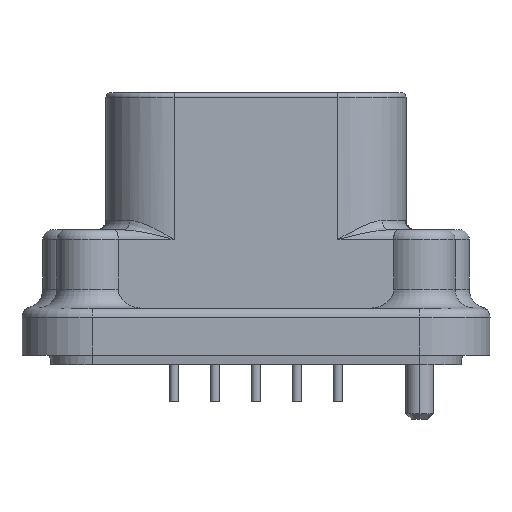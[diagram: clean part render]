
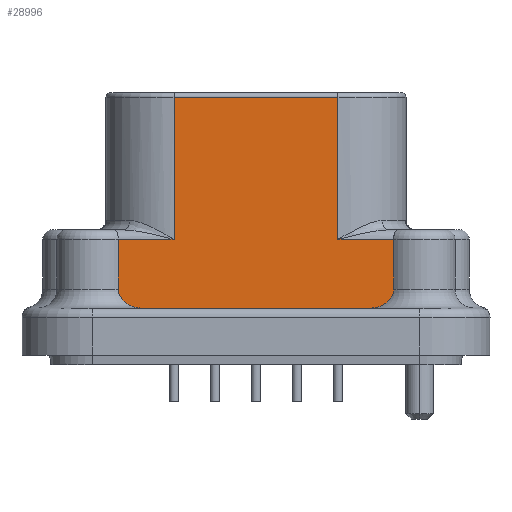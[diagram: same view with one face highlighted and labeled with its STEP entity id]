
A CAD part, left-side view. The second image highlights one B-rep face of the part: STEP entity #28996.
In plain terms, the highlighted planar face has unit normal (-1, 0, 0).
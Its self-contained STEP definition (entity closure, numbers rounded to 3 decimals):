
#6094=CARTESIAN_POINT('',(-34.29,-8.839,-15.824));
#6105=DIRECTION('',(0.,0.,1.));
#6106=VECTOR('',#6105,15.316);
#6107=CARTESIAN_POINT('',(-34.29,-8.839,-15.824));
#6108=LINE('',#6107,#6106);
#6473=DIRECTION('',(0.,0.,-1.));
#6474=VECTOR('',#6473,15.316);
#6475=CARTESIAN_POINT('',(-34.29,8.839,-0.508));
#6476=LINE('',#6475,#6474);
#6491=CARTESIAN_POINT('',(-34.29,8.839,-15.824));
#6493=DIRECTION('',(0.,-1.,0.));
#6494=VECTOR('',#6493,6.01);
#6495=CARTESIAN_POINT('',(-34.29,-8.839,-15.824));
#6496=LINE('',#6495,#6494);
#6497=CARTESIAN_POINT('',(-34.29,-12.417,-23.241));
#6498=CARTESIAN_POINT('',(-34.29,-12.602,-23.241));
#6499=CARTESIAN_POINT('',(-34.29,-12.965,-23.202));
#6500=CARTESIAN_POINT('',(-34.29,-13.515,-23.021));
#6501=CARTESIAN_POINT('',(-34.29,-13.986,-22.743));
#6502=CARTESIAN_POINT('',(-34.29,-14.363,-22.407));
#6503=CARTESIAN_POINT('',(-34.29,-14.652,-22.011));
#6504=CARTESIAN_POINT('',(-34.29,-14.817,-21.596));
#6505=CARTESIAN_POINT('',(-34.29,-14.849,-21.337));
#6506=CARTESIAN_POINT('',(-34.29,-14.849,-21.209));
#6508=CARTESIAN_POINT('',(-34.29,14.849,-21.209));
#6509=CARTESIAN_POINT('',(-34.29,14.849,-21.337));
#6510=CARTESIAN_POINT('',(-34.29,14.817,-21.596));
#6511=CARTESIAN_POINT('',(-34.29,14.652,-22.011));
#6512=CARTESIAN_POINT('',(-34.29,14.363,-22.407));
#6513=CARTESIAN_POINT('',(-34.29,13.986,-22.743));
#6514=CARTESIAN_POINT('',(-34.29,13.515,-23.021));
#6515=CARTESIAN_POINT('',(-34.29,12.965,-23.202));
#6516=CARTESIAN_POINT('',(-34.29,12.602,-23.241));
#6517=CARTESIAN_POINT('',(-34.29,12.417,-23.241));
#6519=DIRECTION('',(0.,0.,-1.));
#6520=VECTOR('',#6519,5.385);
#6521=CARTESIAN_POINT('',(-34.29,14.849,-15.824));
#6522=LINE('',#6521,#6520);
#6523=DIRECTION('',(0.,-1.,0.));
#6524=VECTOR('',#6523,6.01);
#6525=CARTESIAN_POINT('',(-34.29,14.849,-15.824));
#6526=LINE('',#6525,#6524);
#6527=DIRECTION('',(0.,-1.,0.));
#6528=VECTOR('',#6527,17.678);
#6529=CARTESIAN_POINT('',(-34.29,8.839,-0.508));
#6530=LINE('',#6529,#6528);
#6839=DIRECTION('',(0.,-1.,0.));
#6840=VECTOR('',#6839,24.834);
#6841=CARTESIAN_POINT('',(-34.29,12.417,-23.241));
#6842=LINE('',#6841,#6840);
#7256=DIRECTION('',(0.,0.,-1.));
#7257=VECTOR('',#7256,5.385);
#7258=CARTESIAN_POINT('',(-34.29,-14.849,-15.824));
#7259=LINE('',#7258,#7257);
#15515=VERTEX_POINT('',#6508);
#15516=VERTEX_POINT('',#6517);
#15557=VERTEX_POINT('',#6497);
#15558=VERTEX_POINT('',#6506);
#15611=CARTESIAN_POINT('',(-34.29,-14.849,-15.824));
#15613=VERTEX_POINT('',#15611);
#15632=CARTESIAN_POINT('',(-34.29,14.849,-15.824));
#15634=VERTEX_POINT('',#15632);
#15702=VERTEX_POINT('',#6491);
#15720=VERTEX_POINT('',#6094);
#15743=CARTESIAN_POINT('',(-34.29,-8.839,-0.508));
#15744=VERTEX_POINT('',#15743);
#15745=CARTESIAN_POINT('',(-34.29,8.839,-0.508));
#15746=VERTEX_POINT('',#15745);
#28973=CARTESIAN_POINT('',(-34.29,8.839,0.));
#28974=DIRECTION('',(-1.,0.,0.));
#28975=DIRECTION('',(0.,-1.,0.));
#28976=AXIS2_PLACEMENT_3D('',#28973,#28974,#28975);
#28977=PLANE('',#28976);
#28979=ORIENTED_EDGE('',*,*,#28978,.T.);
#28981=ORIENTED_EDGE('',*,*,#28980,.T.);
#28983=ORIENTED_EDGE('',*,*,#28982,.F.);
#28985=ORIENTED_EDGE('',*,*,#28984,.F.);
#28987=ORIENTED_EDGE('',*,*,#28986,.F.);
#28989=ORIENTED_EDGE('',*,*,#28988,.F.);
#28990=ORIENTED_EDGE('',*,*,#28964,.T.);
#28991=ORIENTED_EDGE('',*,*,#28900,.F.);
#28992=ORIENTED_EDGE('',*,*,#28402,.T.);
#28993=ORIENTED_EDGE('',*,*,#28432,.F.);
#28994=EDGE_LOOP('',(#28979,#28981,#28983,#28985,#28987,#28989,#28990,#28991,
#28992,#28993));
#28995=FACE_OUTER_BOUND('',#28994,.F.);
#28996=ADVANCED_FACE('',(#28995),#28977,.T.);
#6507=B_SPLINE_CURVE_WITH_KNOTS('',3,(#6497,#6498,#6499,#6500,#6501,#6502,#6503,
#6504,#6505,#6506),.UNSPECIFIED.,.F.,.F.,(4,1,1,1,1,1,1,4),(0.,
0.143,0.286,0.429,0.571,
0.714,0.857,1.),.UNSPECIFIED.);
#6518=B_SPLINE_CURVE_WITH_KNOTS('',3,(#6508,#6509,#6510,#6511,#6512,#6513,#6514,
#6515,#6516,#6517),.UNSPECIFIED.,.F.,.F.,(4,1,1,1,1,1,1,4),(0.,
0.143,0.286,0.429,0.571,
0.714,0.857,1.),.UNSPECIFIED.);
#28402=EDGE_CURVE('',#15746,#15744,#6530,.T.);
#28432=EDGE_CURVE('',#15720,#15744,#6108,.T.);
#28900=EDGE_CURVE('',#15746,#15702,#6476,.T.);
#28964=EDGE_CURVE('',#15634,#15702,#6526,.T.);
#28978=EDGE_CURVE('',#15720,#15613,#6496,.T.);
#28980=EDGE_CURVE('',#15613,#15558,#7259,.T.);
#28982=EDGE_CURVE('',#15557,#15558,#6507,.T.);
#28984=EDGE_CURVE('',#15516,#15557,#6842,.T.);
#28986=EDGE_CURVE('',#15515,#15516,#6518,.T.);
#28988=EDGE_CURVE('',#15634,#15515,#6522,.T.);
